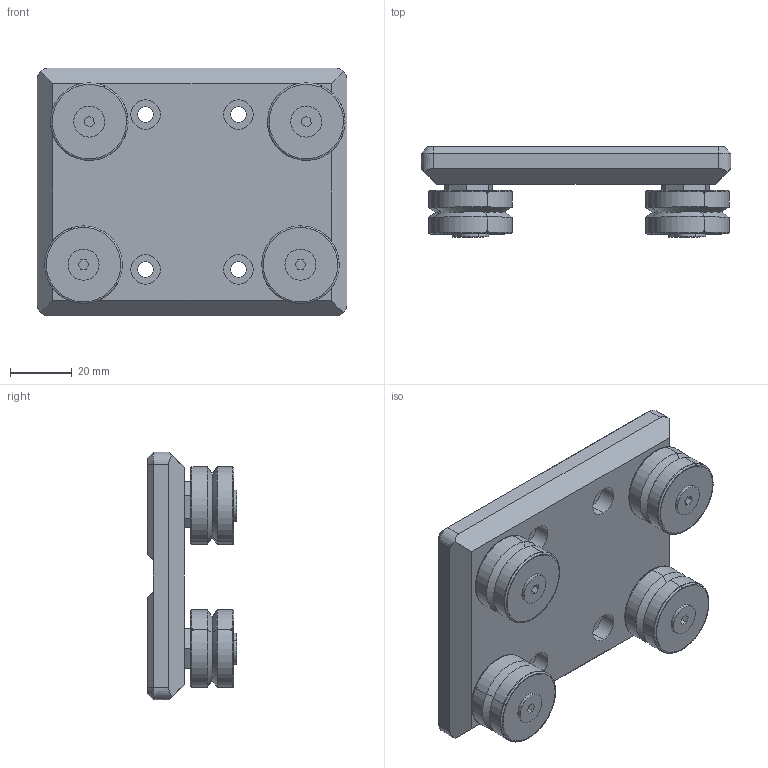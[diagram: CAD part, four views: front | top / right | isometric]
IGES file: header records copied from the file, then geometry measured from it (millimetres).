
Start section: 3D InterOp IGES (Version 21 0 1), Spatial Corp. Copyright (c) 1999-2007.
Global section: file name: RG-100(GS-25N).igs; native system: Spatial Corp.; preprocessor: 3D InterOp GENERIC/IGES 3.0; author: Noname; organization: Noname; date: 20220328.110316; units: millimetre
Bounding box: 100 x 29 x 80 mm (x, y, z)
Surface area: 39520.2 mm2 (no closed solid volume)
Topology: 0 solids, 0 shells, 358 faces, 1628 edges, 1604 vertices
Faces by surface type: revolution 208, extrusion 150
